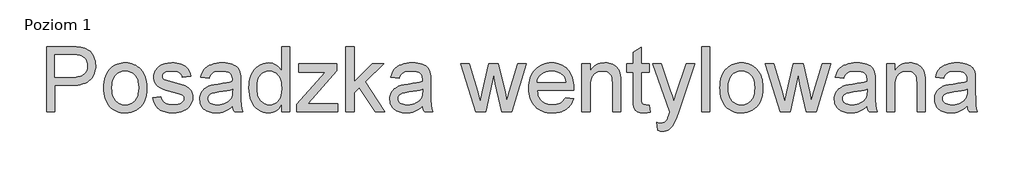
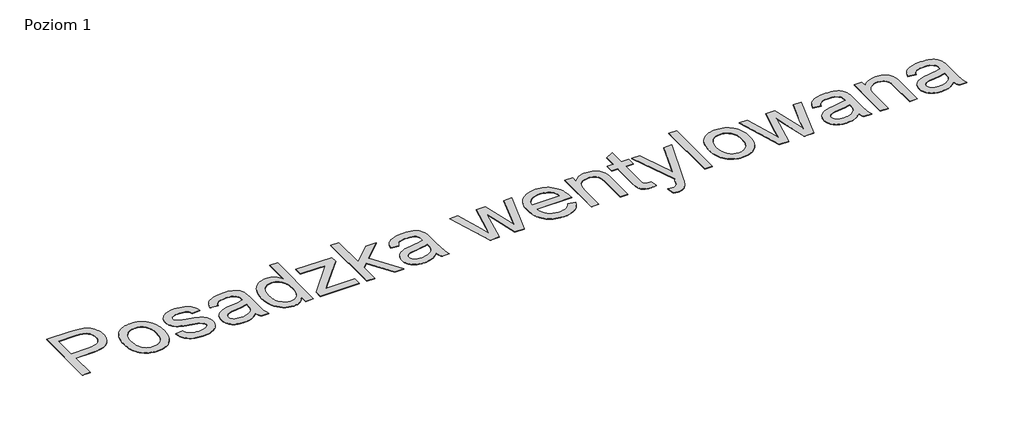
# One storey, part 2 of 4: 1 proxy.
"""IFC4 building model written with IfcOpenShell, lengths in millimetres."""

from ifc_helpers import new_model, si_unit, frame, origin, place, context, project, spatial, polyline, outline, extrude, element, save

model = new_model("IFC4")

# Units and contexts
model_context = context("Model", 3, world=origin())
ifc_project = project(units=[si_unit("LENGTHUNIT", "METRE", prefix="MILLI")], contexts=[model_context])

# Site, building, storey
site = spatial("IfcSite", under=ifc_project)
building = spatial("IfcBuilding", under=site)
storey = spatial("IfcBuildingStorey", under=building, Name="Poziom 1", Elevation=5.490868)

# Proxy
placement = place(None, origin())
element("IfcBuildingElementProxy", 1, Name="1500 mm Arial", ObjectType="1500 mm Arial", at=placement, inside=storey, context=model_context, shape_type="SweptSolid", body=[
    extrude(outline(polyline([(-113938.6355112, 58960.4499175), (-113938.6355112, 60467.2945698), (-113380.1906425, 60467.2945698), (-113250.1443572, 60463.7077203), (-113155.0468614, 60452.9471719), (-113102.6351734, 60441.6462969), (-113054.661062, 60426.1377715), (-113011.1245271, 60406.4215959), (-112972.0255688, 60382.4977699), (-112936.9503199, 60353.8719521), (-112905.484913, 60320.0498012), (-112877.6293481, 60281.0313171), (-112853.3836254, 60236.8164998), (-112833.7479239, 60188.865381), (-112819.7224228, 60138.6379923), (-112811.3071222, 60086.1343338), (-112808.502022, 60031.3544055), (-112810.3960394, 59984.1792877), (-112816.0780918, 59938.8550763), (-112825.5481791, 59895.3817712), (-112838.8063013, 59853.7593723), (-112855.8524585, 59813.9878797), (-112876.6866505, 59776.0672934), (-112901.3088775, 59739.9976134), (-112929.7191394, 59705.7788397), (-112963.0728156, 59674.5663517), (-113002.5252855, 59647.5155288), (-113048.0765491, 59624.6263709), (-113099.7266064, 59605.8988781), (-113157.4754574, 59591.3330503), (-113221.3231021, 59580.9288876), (-113291.2695406, 59574.68639), (-113367.3147727, 59572.6055575), (-113750.2799296, 59572.6055575), (-113750.2799296, 58960.4499175), (-113938.6355112, 58960.4499175)]), holes=[polyline([(-113750.2799296, 59760.961139), (-113356.2783128, 59760.961139), (-113265.6873715, 59765.2837525), (-113189.259887, 59778.2515928), (-113156.3574411, 59787.977473), (-113126.9958593, 59799.86466), (-113101.1751418, 59813.9131537), (-113078.8952884, 59830.1229541), (-113043.0038013, 59868.2217332), (-113017.3670248, 59913.3562555), (-113001.9849588, 59965.526521), (-112996.8576035, 60024.7325296), (-112999.8811337, 60068.694428), (-113008.9517241, 60109.3453884), (-113024.0693749, 60146.685411), (-113045.2340859, 60180.7144955), (-113071.3192186, 60210.3289961), (-113101.1981344, 60234.4252668), (-113134.8708333, 60253.0033076), (-113172.3373152, 60266.0631184), (-113244.9940093, 60275.7200208), (-113360.6928967, 60278.9389882), (-113750.2799296, 60278.9389882), (-113750.2799296, 59760.961139)])]), frame((0.0, 0.0, 5.490868), z_axis=(0.0, 0.0, 1.0), x_axis=(1.0, 0.0, 0.0)), (0.0, 0.0, 1.0), 10.0),
    extrude(outline(polyline([(-112620.1464405, 59513.7444383), (-112617.6000073, 59587.8784084), (-112609.9607077, 59657.057468), (-112597.2285418, 59721.2816169), (-112579.4035095, 59780.5508553), (-112556.4856108, 59834.865183), (-112528.4748458, 59884.2246), (-112495.3712144, 59928.6291065), (-112457.1747166, 59968.0787023), (-112422.2144307, 59996.7907424), (-112385.3917423, 60021.6745105), (-112346.7066512, 60042.7300065), (-112306.1591576, 60059.9572306), (-112263.7492613, 60073.3561826), (-112219.4769625, 60082.9268627), (-112173.342261, 60088.6692707), (-112125.3451569, 60090.5834067), (-112072.1430975, 60088.2525294), (-112021.4299896, 60081.2598974), (-111973.2058334, 60069.6055107), (-111927.4706288, 60053.2893694), (-111884.2243758, 60032.3114735), (-111843.4670745, 60006.6718229), (-111805.1987247, 59976.3704176), (-111769.4193266, 59941.4072577), (-111737.042837, 59902.3341661), (-111708.9832126, 59859.7029658), (-111685.2404535, 59813.5136568), (-111665.8145597, 59763.7662392), (-111650.7055312, 59710.4607129), (-111639.913368, 59653.597078), (-111633.4380701, 59593.1753344), (-111631.2796374, 59529.1954821), (-111635.0964131, 59428.3728228), (-111646.5467402, 59338.9085201), (-111665.6306187, 59260.8025739), (-111692.3480486, 59194.0549845), (-111726.3656369, 59136.400978), (-111767.3499904, 59085.5757811), (-111815.3011092, 59041.5793938), (-111870.2189933, 59004.4118159), (-111929.9653286, 58974.8777895), (-111992.4018009, 58953.7820564), (-112057.5284104, 58941.1246165), (-112125.3451569, 58936.9054698), (-112179.3864472, 58939.2277249), (-112230.7778375, 58946.1944902), (-112279.5193278, 58957.8057657), (-112325.6109181, 58974.0615513), (-112369.0526084, 58994.9618472), (-112409.8443987, 59020.5066532), (-112447.986289, 59050.6959695), (-112483.4782793, 59085.5297959), (-112515.5098795, 59124.732221), (-112543.2705998, 59168.0273333), (-112566.76044, 59215.4151328), (-112585.9794002, 59266.8956195), (-112600.9274803, 59322.4687934), (-112611.6046804, 59382.1346545), (-112618.0110004, 59445.8932028), (-112620.1464405, 59513.7444383)]), holes=[polyline([(-112431.7908589, 59514.1123203), (-112426.3416069, 59422.751126), (-112419.5300418, 59381.6661798), (-112409.9938507, 59343.6450007), (-112397.7330336, 59308.687589), (-112382.7475904, 59276.7939444), (-112365.0375213, 59247.9640671), (-112344.6028261, 59222.1979571), (-112322.1045428, 59199.4783698), (-112298.2037094, 59179.7880608), (-112272.9003259, 59163.1270302), (-112246.1943924, 59149.4952778), (-112218.0859087, 59138.8928037), (-112188.5748749, 59131.319608), (-112125.3451569, 59125.2610514), (-112062.4373358, 59131.3540969), (-112033.0527614, 59138.9704038), (-112005.0477445, 59149.6332335), (-111978.4222851, 59163.342586), (-111953.1763832, 59180.0984613), (-111929.3100388, 59199.9008593), (-111906.8232518, 59222.7497801), (-111886.3885566, 59248.7199497), (-111868.6784874, 59277.8860941), (-111853.6930443, 59310.2482134), (-111841.4322272, 59345.8063075), (-111831.8960361, 59384.5603764), (-111825.084471, 59426.5104202), (-111819.635219, 59519.9984322), (-111825.1189599, 59608.4625557), (-111831.9736362, 59648.409367), (-111841.5701829, 59685.4993448), (-111853.9086001, 59719.7324889), (-111868.9888879, 59751.1087993), (-111886.8110461, 59779.6282762), (-111907.3750748, 59805.2909194), (-111953.9006509, 59847.7008157), (-111979.155175, 59864.3618464), (-112005.7375233, 59877.9935987), (-112033.6476956, 59888.5960728), (-112062.885692, 59896.1692686), (-112125.3451569, 59902.2278252), (-112188.5748749, 59896.1922612), (-112218.0859087, 59888.6478062), (-112246.1943924, 59878.0855692), (-112272.9003259, 59864.5055503), (-112298.2037094, 59847.9077493), (-112322.1045428, 59828.2921664), (-112344.6028261, 59805.6588014), (-112365.0375213, 59779.9789137), (-112382.7475904, 59751.2237625), (-112397.7330336, 59719.3933476), (-112409.9938507, 59684.4876693), (-112419.5300418, 59646.5067273), (-112426.3416069, 59605.4505219), (-112431.7908589, 59514.1123203)])]), frame((0.0, 0.0, 5.490868), z_axis=(0.0, 0.0, 1.0), x_axis=(1.0, 0.0, 0.0)), (0.0, 0.0, 1.0), 10.0),
    extrude(outline(polyline([(-111490.0129513, 59290.0721852), (-111301.6573697, 59313.6166329), (-111290.2760205, 59270.6664099), (-111271.9508986, 59233.0504759), (-111246.6820041, 59200.7688309), (-111214.4693369, 59173.8214747), (-111175.2209265, 59152.5762895), (-111128.8448025, 59137.4011572), (-111075.3409648, 59128.2960778), (-111014.7094135, 59125.2610514), (-110954.1468401, 59128.0431589), (-110901.953582, 59136.3894817), (-110858.1296393, 59150.3000196), (-110822.675012, 59169.7747728), (-110795.3137886, 59192.9973237), (-110775.7700576, 59218.1512551), (-110764.043819, 59245.236567), (-110760.1350728, 59274.2532594), (-110764.0668117, 59299.6831023), (-110775.8620281, 59322.2618598), (-110795.5207223, 59341.9895318), (-110823.042894, 59358.8661183), (-110893.5842666, 59382.778448), (-111016.9167055, 59412.5768896), (-111188.8095677, 59462.2869442), (-111252.200234, 59484.4173455), (-111300.5537238, 59504.7313294), (-111338.9169181, 59526.0110035), (-111372.3366981, 59551.0384755), (-111400.8130638, 59579.8137453), (-111424.3460151, 59612.336813), (-111442.7746038, 59647.6304919), (-111455.9378815, 59684.7175955), (-111463.8358481, 59723.5981239), (-111466.4685036, 59764.272077), (-111464.3531821, 59801.4626474), (-111458.0072177, 59837.2506678), (-111447.4306103, 59871.636138), (-111432.62336, 59904.6190581), (-111414.1602824, 59935.532642), (-111392.6161931, 59963.7101036), (-111367.991092, 59989.1514428), (-111340.2849792, 60011.8566597), (-111288.2756622, 60042.1609391), (-111220.5393898, 60067.590782), (-111142.2265101, 60084.8352505), (-111058.4873709, 60090.5834067), (-110995.1886751, 60088.2726479), (-110935.890696, 60081.3403716), (-110880.5934336, 60069.7865777), (-110829.2968879, 60053.6112662), (-110783.219668, 60033.4927196), (-110743.5803831, 60010.1092203), (-110710.379033, 59983.4607682), (-110683.6156178, 59953.5473635), (-110661.9105801, 59919.3228416), (-110643.8843624, 59879.7410382), (-110629.5369646, 59834.8019532), (-110618.8683867, 59784.5055867), (-110807.2239682, 59760.961139), (-110816.2025882, 59792.4265459), (-110830.9983422, 59820.2361255), (-110851.6112302, 59844.3898777), (-110878.0412523, 59864.8878027), (-110910.4033716, 59881.2240625), (-110948.8125511, 59892.8928195), (-110993.268791, 59899.8940738), (-111043.7720911, 59902.2278252), (-111102.3572989, 59899.9975406), (-111151.9293977, 59893.3066868), (-111192.4883877, 59882.1552638), (-111224.0342688, 59866.5432716), (-111247.6936796, 59847.9652309), (-111264.5932587, 59827.9156621), (-111274.7330062, 59806.3945654), (-111278.1129221, 59783.4019407), (-111272.5027216, 59754.4312336), (-111255.6721203, 59728.5875234), (-111226.8853542, 59705.5029282), (-111185.4066593, 59687.016858), (-111023.1706994, 59646.9177205), (-110856.7500818, 59597.7135037), (-110746.70738, 59558.2581597), (-110707.9878, 59539.0133328), (-110673.682804, 59515.8597597), (-110643.7923919, 59488.7974405), (-110618.3165637, 59457.826375), (-110597.9565945, 59422.9005781), (-110583.4137594, 59383.9740645), (-110574.6880583, 59341.0468341), (-110571.7794913, 59294.1188871), (-110575.1938961, 59246.9840065), (-110585.4371104, 59201.2286834), (-110602.5091342, 59156.8529177), (-110626.4099676, 59113.8567095), (-110656.7487359, 59073.9530093), (-110693.1345645, 59038.8547677), (-110735.5674534, 59008.5619847), (-110784.0474025, 58983.0746602), (-110837.2523361, 58962.8756394), (-110893.8601781, 58948.4477674), (-110953.8709286, 58939.7910442), (-111017.2845875, 58936.9054698), (-111118.6590698, 58942.469685), (-111164.5351042, 58949.424954), (-111207.2036675, 58959.1623305), (-111246.6647596, 58971.6818147), (-111282.9183806, 58986.9834064), (-111315.9645305, 59005.0671057), (-111345.8032092, 59025.9329127), (-111372.7620616, 59049.5348419), (-111397.1687327, 59075.8269083), (-111419.0232225, 59104.8091117), (-111438.325531, 59136.4814522), (-111455.075658, 59170.8439298), (-111469.2736038, 59207.8965445), (-111490.0129513, 59290.0721852)])), frame((0.0, 0.0, 5.490868), z_axis=(0.0, 0.0, 1.0), x_axis=(1.0, 0.0, 0.0)), (0.0, 0.0, 1.0), 10.0),
    extrude(outline(polyline([(-109653.5460314, 59101.7166037), (-109698.2092048, 59059.8010488), (-109743.5391644, 59024.5533552), (-109789.5359101, 58995.9735227), (-109836.199442, 58974.0615513), (-109884.0585903, 58957.8057657), (-109933.6421854, 58946.1944902), (-109984.9502274, 58939.2277249), (-110037.9827163, 58936.9054698), (-110121.8483149, 58942.4926776), (-110159.909731, 58949.4766874), (-110195.390225, 58959.254301), (-110228.2897969, 58971.8255186), (-110258.6084466, 58987.19034), (-110286.3461742, 59005.3487654), (-110311.5029797, 59026.3007946), (-110333.8776776, 59049.4256269), (-110353.2690825, 59074.1024614), (-110369.6771943, 59100.331298), (-110383.102013, 59128.1121368), (-110393.5435387, 59157.4449778), (-110401.0017714, 59188.3298209), (-110406.9683575, 59254.7555137), (-110404.7150803, 59294.6937028), (-110397.9552486, 59332.8384671), (-110386.6888625, 59369.1898068), (-110370.9159219, 59403.7477217), (-110351.4756578, 59435.7534553), (-110329.2073007, 59464.4482509), (-110304.1108509, 59489.8321086), (-110276.1863082, 59511.9050283), (-110213.8762953, 59547.7735228), (-110144.3006129, 59573.7092035), (-110076.5183553, 59588.1485718), (-109981.3288891, 59602.0361171), (-109877.7241222, 59616.2915444), (-109788.7426646, 59631.8345587), (-109714.3845163, 59648.66516), (-109654.6496773, 59666.7833483), (-109653.5460314, 59708.7218957), (-109656.7879914, 59754.3852484), (-109666.5138717, 59792.7829316), (-109682.7236721, 59823.9149454), (-109705.4173927, 59847.7812899), (-109744.6428104, 59871.6016491), (-109792.4214845, 59888.6161913), (-109848.753415, 59898.8249167), (-109913.6386019, 59902.2278252), (-109973.9712492, 59899.9630516), (-110025.8426105, 59893.168731), (-110069.2526859, 59881.8448634), (-110104.2014754, 59865.9914486), (-110132.9192637, 59844.3668851), (-110157.6363352, 59815.729571), (-110178.3526901, 59780.0795065), (-110195.0683283, 59737.4166913), (-110383.4239098, 59760.961139), (-110369.0880083, 59815.2237333), (-110350.7283975, 59863.9680977), (-110328.3450773, 59907.1942321), (-110301.9380479, 59944.9021366), (-110270.3691741, 59977.8505678), (-110232.5003213, 60006.7982823), (-110188.3314892, 60031.7452801), (-110137.862678, 60052.6915612), (-110082.1170594, 60069.2692436), (-110022.1178053, 60081.1104453), (-109957.8649156, 60088.2151664), (-109889.3583903, 60090.5834067), (-109822.3923708, 60088.4910778), (-109762.0252347, 60082.2140913), (-109708.2569818, 60071.7524471), (-109661.0876123, 60057.1061451), (-109620.1262514, 60039.2983573), (-109584.9820245, 60019.3522554), (-109555.6549317, 59997.2678394), (-109532.1449729, 59973.0451092), (-109513.0840871, 59946.0862568), (-109497.1042129, 59915.7934737), (-109484.2053504, 59882.1667601), (-109474.3874997, 59845.2061159), (-109467.4897123, 59780.0910028), (-109465.1904498, 59680.3949821), (-109465.1904498, 59446.0541511), (-109462.7992169, 59241.9256291), (-109455.6255179, 59118.8231164), (-109441.4620611, 59037.9350627), (-109418.1015544, 58960.4499175), (-109606.457136, 58960.4499175), (-109623.1957668, 58991.9038281), (-109636.6234596, 59025.9329127), (-109646.7402144, 59062.5371712), (-109653.5460314, 59101.7166037)]), holes=[polyline([(-109653.5460314, 59478.4277667), (-109710.4757701, 59462.1259958), (-109780.0974377, 59447.0658266), (-109957.4165594, 59420.6702935), (-110055.1352143, 59406.2309252), (-110119.4685782, 59390.1360879), (-110161.6370519, 59369.2587847), (-110178.6171053, 59355.8540845), (-110192.8610363, 59340.4720185), (-110204.1274224, 59323.6644099), (-110212.174841, 59305.9830815), (-110217.0032922, 59287.4280334), (-110218.6127759, 59267.9992655), (-110215.1064007, 59238.7296542), (-110204.5872749, 59211.9892317), (-110187.0553985, 59187.7779979), (-110162.5107717, 59166.0959528), (-110131.1833205, 59148.2306834), (-110093.3029713, 59135.4697767), (-110048.8697241, 59127.8132327), (-109997.8835788, 59125.2610514), (-109945.8282765, 59128.0776479), (-109896.7160302, 59136.5274375), (-109850.5468398, 59150.6104201), (-109807.3207053, 59170.3265958), (-109768.3252138, 59194.0434881), (-109734.8479523, 59220.1286209), (-109706.8889207, 59248.5819939), (-109684.4481189, 59279.4036073), (-109671.4113007, 59306.994757), (-109662.0992877, 59340.4720185), (-109656.5120799, 59379.835392), (-109654.6496773, 59425.0848774), (-109653.5460314, 59478.4277667)])]), frame((0.0, 0.0, 5.490868), z_axis=(0.0, 0.0, 1.0), x_axis=(1.0, 0.0, 0.0)), (0.0, 0.0, 1.0), 10.0),
    extrude(outline(polyline([(-108523.4125422, 58960.4499175), (-108523.4125422, 59138.1369212), (-108550.1012313, 59090.9732998), (-108579.7674653, 59050.0981612), (-108612.4112442, 59015.5115055), (-108648.032568, 58987.2133327), (-108686.6314367, 58965.2036427), (-108728.2078504, 58949.4824355), (-108772.7618089, 58940.0497112), (-108820.2933123, 58936.9054698), (-108882.4653695, 58941.4580095), (-108942.0622527, 58955.1156286), (-108999.0839619, 58977.878327), (-109053.5304972, 59009.7461049), (-109103.7004043, 59049.7647682), (-109147.892229, 59096.980123), (-109186.1059712, 59151.3921693), (-109218.3416311, 59213.0009072), (-109243.9324223, 59280.6337128), (-109262.211559, 59353.1179621), (-109273.179041, 59430.4536553), (-109276.8348683, 59512.6407923), (-109273.4664488, 59593.3219123), (-109263.3611902, 59670.1862567), (-109246.5190926, 59743.2338254), (-109222.940156, 59812.4646183), (-109192.6358766, 59875.8552846), (-109155.6177509, 59931.3824733), (-109111.8857787, 59979.0461843), (-109061.4399601, 60018.8464176), (-109006.0622235, 60050.2313503), (-108947.5344974, 60072.6491594), (-108885.8567816, 60086.0998449), (-108821.0290763, 60090.5834067), (-108773.6182841, 60087.3759356), (-108728.8746365, 60077.7535221), (-108686.7981333, 60061.7161664), (-108647.3887745, 60039.2638684), (-108611.0834201, 60011.684215), (-108578.31893, 59980.2647934), (-108549.095304, 59945.0056034), (-108523.4125422, 59905.9066451), (-108523.4125422, 60467.2945698), (-108335.0569606, 60467.2945698), (-108335.0569606, 58960.4499175), (-108523.4125422, 58960.4499175)]), holes=[polyline([(-109088.4792868, 59513.3765563), (-109083.1679905, 59422.0383546), (-109076.5288701, 59380.9821492), (-109067.2341015, 59343.0012072), (-109055.2836849, 59308.0955289), (-109040.67762, 59276.2651141), (-109023.415907, 59247.5099628), (-109003.4985459, 59221.8300751), (-108959.0997876, 59179.5811272), (-108910.8842536, 59149.4033073), (-108858.8519439, 59131.2966153), (-108803.0028585, 59125.2610514), (-108746.8893579, 59131.0207038), (-108695.1674487, 59148.2996613), (-108647.8371307, 59177.0979237), (-108604.8984041, 59217.4154911), (-108585.8001552, 59241.9744884), (-108569.2483395, 59269.5742603), (-108555.242957, 59300.2148068), (-108543.7840077, 59333.8961279), (-108528.5054085, 59410.3810939), (-108523.4125422, 59499.0291585), (-108528.597379, 59596.2189831), (-108535.0784251, 59639.6233103), (-108544.1518896, 59679.5672476), (-108555.8177726, 59716.0507948), (-108570.076074, 59749.073952), (-108586.9267938, 59778.6367193), (-108606.3699321, 59804.7390964), (-108650.2513563, 59847.3904153), (-108673.9941154, 59864.1462905), (-108698.9382391, 59877.855643), (-108725.0837275, 59888.5184727), (-108752.4305805, 59896.1347796), (-108810.7283804, 59902.2278252), (-108867.6811118, 59896.3762022), (-108919.7134215, 59878.8213332), (-108966.8253095, 59849.5632183), (-109009.0167758, 59808.6018574), (-109027.6408018, 59783.5082816), (-109043.7816243, 59755.0405382), (-109057.4392434, 59723.198627), (-109068.613659, 59687.9825482), (-109083.5128798, 59607.4278876), (-109088.4792868, 59513.3765563)])]), frame((0.0, 0.0, 5.490868), z_axis=(0.0, 0.0, 1.0), x_axis=(1.0, 0.0, 0.0)), (0.0, 0.0, 1.0), 10.0),
    extrude(outline(polyline([(-108170.2458268, 58960.4499175), (-108170.2458268, 59137.7690392), (-107520.1983413, 59878.6833775), (-107712.6006248, 59878.6833775), (-108123.1569314, 59878.6833775), (-108123.1569314, 60067.038959), (-107252.0123668, 60067.038959), (-107252.0123668, 59907.0102911), (-107828.4834533, 59249.6051657), (-107916.7751321, 59148.805499), (-107698.988991, 59148.805499), (-107228.4679191, 59148.805499), (-107228.4679191, 58960.4499175), (-108170.2458268, 58960.4499175)])), frame((0.0, 0.0, 5.490868), z_axis=(0.0, 0.0, 1.0), x_axis=(1.0, 0.0, 0.0)), (0.0, 0.0, 1.0), 10.0),
    extrude(outline(polyline([(-107040.1123376, 58960.4499175), (-107040.1123376, 60467.2945698), (-106851.7567561, 60467.2945698), (-106851.7567561, 59657.5862984), (-106429.4282256, 60067.038959), (-106168.967773, 60067.038959), (-106596.8145334, 59652.4359504), (-106145.4233253, 58960.4499175), (-106365.4167585, 58960.4499175), (-106731.8272257, 59521.4699602), (-106851.7567561, 59404.8513677), (-106851.7567561, 58960.4499175), (-107040.1123376, 58960.4499175)])), frame((0.0, 0.0, 5.490868), z_axis=(0.0, 0.0, 1.0), x_axis=(1.0, 0.0, 0.0)), (0.0, 0.0, 1.0), 10.0),
    extrude(outline(polyline([(-105274.2787608, 59101.7166037), (-105318.9419342, 59059.8010488), (-105364.2718938, 59024.5533552), (-105410.2686395, 58995.9735227), (-105456.9321714, 58974.0615513), (-105504.7913197, 58957.8057657), (-105554.3749148, 58946.1944902), (-105605.6829569, 58939.2277249), (-105658.7154457, 58936.9054698), (-105742.5810443, 58942.4926776), (-105780.6424604, 58949.4766874), (-105816.1229544, 58959.254301), (-105849.0225263, 58971.8255186), (-105879.341176, 58987.19034), (-105907.0789036, 59005.3487654), (-105932.2357091, 59026.3007946), (-105954.6104071, 59049.4256269), (-105974.0018119, 59074.1024614), (-105990.4099237, 59100.331298), (-106003.8347425, 59128.1121368), (-106014.2762681, 59157.4449778), (-106021.7345008, 59188.3298209), (-106027.7010869, 59254.7555137), (-106025.4478097, 59294.6937028), (-106018.687978, 59332.8384671), (-106007.4215919, 59369.1898068), (-105991.6486514, 59403.7477217), (-105972.2083872, 59435.7534553), (-105949.9400302, 59464.4482509), (-105924.8435803, 59489.8321086), (-105896.9190376, 59511.9050283), (-105834.6090247, 59547.7735228), (-105765.0333423, 59573.7092035), (-105697.2510847, 59588.1485718), (-105602.0616185, 59602.0361171), (-105498.4568516, 59616.2915444), (-105409.475394, 59631.8345587), (-105335.1172457, 59648.66516), (-105275.3824068, 59666.7833483), (-105274.2787608, 59708.7218957), (-105277.5207209, 59754.3852484), (-105287.2466011, 59792.7829316), (-105303.4564015, 59823.9149454), (-105326.1501221, 59847.7812899), (-105365.3755398, 59871.6016491), (-105413.1542139, 59888.6161913), (-105469.4861445, 59898.8249167), (-105534.3713314, 59902.2278252), (-105594.7039786, 59899.9630516), (-105646.5753399, 59893.168731), (-105689.9854153, 59881.8448634), (-105724.9342049, 59865.9914486), (-105753.6519931, 59844.3668851), (-105778.3690647, 59815.729571), (-105799.0854195, 59780.0795065), (-105815.8010577, 59737.4166913), (-106004.1566392, 59760.961139), (-105989.8207377, 59815.2237333), (-105971.4611269, 59863.9680977), (-105949.0778067, 59907.1942321), (-105922.6707773, 59944.9021366), (-105891.1019036, 59977.8505678), (-105853.2330507, 60006.7982823), (-105809.0642186, 60031.7452801), (-105758.5954074, 60052.6915612), (-105702.8497888, 60069.2692436), (-105642.8505347, 60081.1104453), (-105578.597645, 60088.2151664), (-105510.0911197, 60090.5834067), (-105443.1251002, 60088.4910778), (-105382.7579641, 60082.2140913), (-105328.9897112, 60071.7524471), (-105281.8203417, 60057.1061451), (-105240.8589808, 60039.2983573), (-105205.7147539, 60019.3522554), (-105176.3876611, 59997.2678394), (-105152.8777024, 59973.0451092), (-105133.8168165, 59946.0862568), (-105117.8369423, 59915.7934737), (-105104.9380799, 59882.1667601), (-105095.1202291, 59845.2061159), (-105088.2224417, 59780.0910028), (-105085.9231792, 59680.3949821), (-105085.9231792, 59446.0541511), (-105083.5319463, 59241.9256291), (-105076.3582474, 59118.8231164), (-105062.1947905, 59037.9350627), (-105038.8342839, 58960.4499175), (-105227.1898654, 58960.4499175), (-105243.9284962, 58991.9038281), (-105257.356189, 59025.9329127), (-105267.4729439, 59062.5371712), (-105274.2787608, 59101.7166037)]), holes=[polyline([(-105274.2787608, 59478.4277667), (-105331.2084995, 59462.1259958), (-105400.8301671, 59447.0658266), (-105578.1492888, 59420.6702935), (-105675.8679438, 59406.2309252), (-105740.2013077, 59390.1360879), (-105782.3697814, 59369.2587847), (-105799.3498347, 59355.8540845), (-105813.5937657, 59340.4720185), (-105824.8601518, 59323.6644099), (-105832.9075704, 59305.9830815), (-105837.7360216, 59287.4280334), (-105839.3455054, 59267.9992655), (-105835.8391301, 59238.7296542), (-105825.3200043, 59211.9892317), (-105807.788128, 59187.7779979), (-105783.2435011, 59166.0959528), (-105751.9160499, 59148.2306834), (-105714.0357008, 59135.4697767), (-105669.6024535, 59127.8132327), (-105618.6163083, 59125.2610514), (-105566.5610059, 59128.0776479), (-105517.4487596, 59136.5274375), (-105471.2795692, 59150.6104201), (-105428.0534348, 59170.3265958), (-105389.0579433, 59194.0434881), (-105355.5806817, 59220.1286209), (-105327.6216501, 59248.5819939), (-105305.1808484, 59279.4036073), (-105292.1440302, 59306.994757), (-105282.8320172, 59340.4720185), (-105277.2448094, 59379.835392), (-105275.3824068, 59425.0848774), (-105274.2787608, 59478.4277667)])]), frame((0.0, 0.0, 5.490868), z_axis=(0.0, 0.0, 1.0), x_axis=(1.0, 0.0, 0.0)), (0.0, 0.0, 1.0), 10.0),
    extrude(outline(polyline([(-104053.2784188, 58960.4499175), (-104391.3619723, 60067.038959), (-104196.0166329, 60067.038959), (-104004.7179954, 59421.4060575), (-103947.6962862, 59190.7440465), (-103900.9752728, 59412.9447716), (-103749.0400088, 60067.038959), (-103525.3677557, 60067.038959), (-103373.4324917, 59414.7841816), (-103331.8618262, 59213.5527302), (-103272.264943, 59425.8206414), (-103080.9663055, 60067.038959), (-102884.5173201, 60067.038959), (-103223.7045197, 58960.4499175), (-103451.0555927, 58960.4499175), (-103596.0010988, 59609.393757), (-103637.9396462, 59811.7288544), (-103824.4558178, 58960.4499175), (-104053.2784188, 58960.4499175)])), frame((0.0, 0.0, 5.490868), z_axis=(0.0, 0.0, 1.0), x_axis=(1.0, 0.0, 0.0)), (0.0, 0.0, 1.0), 10.0),
    extrude(outline(polyline([(-101980.263376, 59290.0721852), (-101795.5866144, 59266.5277375), (-101823.9020317, 59192.5604638), (-101841.7759233, 59158.8705205), (-101862.1272703, 59127.3763728), (-101884.9560725, 59098.0780208), (-101910.2623301, 59070.9754644), (-101938.0460429, 59046.0687037), (-101968.3072111, 59023.3577387), (-102000.8963825, 59003.0954882), (-102035.6641052, 58985.5348711), (-102072.610379, 58970.6758873), (-102111.735204, 58958.518537), (-102196.5205076, 58942.3087366), (-102290.0200159, 58936.9054698), (-102350.0480108, 58939.2363472), (-102406.8915272, 58946.2289791), (-102460.5505651, 58957.8833658), (-102511.0251245, 58974.1995071), (-102558.3152053, 58995.177403), (-102602.4208077, 59020.8170537), (-102643.3419315, 59051.1184589), (-102681.0785768, 59086.0816189), (-102714.9639574, 59125.2524291), (-102744.3312873, 59168.1767854), (-102769.1805665, 59214.8546876), (-102789.5117948, 59265.2861358), (-102805.3249725, 59319.4711299), (-102816.6200994, 59377.4096701), (-102823.3971755, 59439.1017563), (-102825.6562009, 59504.5473884), (-102823.3741829, 59572.220431), (-102816.5281289, 59635.9962238), (-102805.1180389, 59695.8747667), (-102789.1439129, 59751.8560596), (-102768.6057508, 59803.9401027), (-102743.5035528, 59852.1268959), (-102713.8373188, 59896.4164393), (-102679.6070488, 59936.8087327), (-102641.7381959, 59972.8496719), (-102601.1562133, 60004.0851526), (-102557.861101, 60030.5151747), (-102511.852859, 60052.1397382), (-102463.1314872, 60068.9588432), (-102411.6969858, 60080.9724896), (-102357.5493546, 60088.1806774), (-102300.6885938, 60090.5834067), (-102245.6873614, 60088.1864256), (-102193.2555549, 60080.9954822), (-102143.3931741, 60069.0105766), (-102096.1002192, 60052.2317087), (-102051.3766901, 60030.6588786), (-102009.2225868, 60004.2920862), (-101969.6379093, 59973.1313316), (-101932.6226576, 59937.1766147), (-101899.1252775, 59896.8762918), (-101870.0942147, 59852.6787189), (-101845.5294693, 59804.5838962), (-101825.4310412, 59752.5918236), (-101809.7989305, 59696.7025011), (-101798.6331371, 59636.9159288), (-101791.9336611, 59573.2321065), (-101789.7005025, 59505.6510344), (-101790.8041484, 59454.883319), (-102637.3006193, 59454.883319), (-102626.3906189, 59379.7204289), (-102616.8917908, 59345.6396109), (-102604.6970775, 59313.8925444), (-102589.8064789, 59284.4792292), (-102572.2199951, 59257.3996655), (-102551.9376261, 59232.6538532), (-102528.9593718, 59210.2417922), (-102477.3064404, 59173.0627181), (-102419.6524339, 59146.5062366), (-102355.9973525, 59130.5723477), (-102286.3411959, 59125.2610514), (-102234.2399084, 59127.7212622), (-102186.0933523, 59135.1018947), (-102141.9015276, 59147.4029489), (-102101.6644344, 59164.6244248), (-102065.3820726, 59187.2261749), (-102033.0544423, 59215.6680517), (-102004.6815434, 59249.9500551), (-101980.263376, 59290.0721852)]), holes=[polyline([(-102637.3006193, 59643.2389006), (-101978.056084, 59643.2389006), (-101987.735979, 59696.5358046), (-102003.5319122, 59742.7509803), (-102025.4438835, 59781.8844275), (-102053.471893, 59813.9361463), (-102078.2694387, 59834.6295086), (-102104.8374166, 59852.5637558), (-102133.1758265, 59867.7388881), (-102163.2846686, 59880.1549055), (-102228.8136489, 59896.7095952), (-102301.4243577, 59902.2278252), (-102367.6546132, 59897.8247375), (-102428.3896313, 59884.6154746), (-102483.6294122, 59862.6000365), (-102533.3739557, 59831.7784231), (-102575.1170658, 59793.5761772), (-102606.3525465, 59749.4188414), (-102627.0803977, 59699.3064159), (-102637.3006193, 59643.2389006)])]), frame((0.0, 0.0, 5.490868), z_axis=(0.0, 0.0, 1.0), x_axis=(1.0, 0.0, 0.0)), (0.0, 0.0, 1.0), 10.0),
    extrude(outline(polyline([(-101601.3449209, 58960.4499175), (-101601.3449209, 60067.038959), (-101412.9893394, 60067.038959), (-101412.9893394, 59912.528521), (-101381.9148071, 59954.2601349), (-101347.5523295, 59990.4275335), (-101309.9019066, 60021.030717), (-101268.9635383, 60046.0696853), (-101224.7372247, 60065.5444384), (-101177.2229657, 60079.4549763), (-101126.4207615, 60087.8012991), (-101072.3306119, 60090.5834067), (-101024.931316, 60088.3416258), (-100979.4863933, 60081.6162831), (-100935.9958437, 60070.4073785), (-100894.4596672, 60054.7149122), (-100856.4528586, 60035.3781148), (-100823.5504126, 60013.2362172), (-100795.7523294, 59988.2892194), (-100773.0586088, 59960.5371214), (-100754.4230865, 59930.0144121), (-100738.799598, 59896.7555805), (-100726.1881433, 59860.7606265), (-100716.5887225, 59822.0295502), (-100709.1391121, 59750.5684727), (-100706.6559087, 59639.9279626), (-100706.6559087, 58960.4499175), (-100895.0114902, 58960.4499175), (-100895.0114902, 59614.5441049), (-100900.4377496, 59711.9408632), (-100907.2205739, 59750.0856275), (-100916.7165279, 59781.1946488), (-100929.6498793, 59807.3947446), (-100946.7448958, 59830.8127329), (-100968.0015773, 59851.4486135), (-100993.4199239, 59869.3023866), (-101022.1262158, 59883.707266), (-101053.2467334, 59893.9964655), (-101086.7814765, 59900.1699853), (-101122.7304452, 59902.2278252), (-101179.9245991, 59897.6063076), (-101233.0490585, 59883.7417549), (-101282.1038233, 59860.6341671), (-101327.0888935, 59828.2835441), (-101347.2218105, 59807.7223895), (-101364.6703386, 59783.0110661), (-101379.4344777, 59754.149574), (-101391.5142279, 59721.137913), (-101400.9095892, 59683.9760834), (-101407.6205615, 59642.6640849), (-101412.9893394, 59547.5895818), (-101412.9893394, 58960.4499175), (-101601.3449209, 58960.4499175)])), frame((0.0, 0.0, 5.490868), z_axis=(0.0, 0.0, 1.0), x_axis=(1.0, 0.0, 0.0)), (0.0, 0.0, 1.0), 10.0),
    extrude(outline(polyline([(-100047.4113733, 59117.5355295), (-100023.8669256, 58954.9316876), (-100098.4550001, 58941.4120243), (-100164.7657298, 58936.9054698), (-100212.843308, 58938.8598429), (-100255.1727301, 58944.7229622), (-100291.753996, 58954.4948277), (-100322.5871057, 58968.1754394), (-100348.4768011, 58985.0290333), (-100370.2278241, 59004.3198454), (-100387.8401746, 59026.0478758), (-100401.3138527, 59050.2131243), (-100411.2926518, 59082.6097325), (-100418.4203654, 59129.0318418), (-100422.6969936, 59189.4794521), (-100424.1225364, 59263.9525635), (-100424.1225364, 59878.6833775), (-100565.3892225, 59878.6833775), (-100565.3892225, 60067.038959), (-100424.1225364, 60067.038959), (-100424.1225364, 60335.9606975), (-100235.7669548, 60446.693178), (-100235.7669548, 60067.038959), (-100047.4113733, 60067.038959), (-100047.4113733, 59878.6833775), (-100235.7669548, 59878.6833775), (-100235.7669548, 59269.4707935), (-100233.2837514, 59207.4826773), (-100225.834141, 59172.3499467), (-100212.8203154, 59152.8981862), (-100193.6444664, 59137.9529802), (-100166.467184, 59128.4340336), (-100129.4490582, 59125.2610514), (-100047.4113733, 59117.5355295)])), frame((0.0, 0.0, 5.490868), z_axis=(0.0, 0.0, 1.0), x_axis=(1.0, 0.0, 0.0)), (0.0, 0.0, 1.0), 10.0),
    extrude(outline(polyline([(-99859.0557918, 58536.6498591), (-99882.6002395, 58718.0156827), (-99831.2807011, 58705.5996654), (-99786.9509207, 58701.4609929), (-99736.6430579, 58706.6573261), (-99715.6967768, 58713.1527426), (-99697.5555959, 58722.2463256), (-99667.1133608, 58747.1243456), (-99642.7411786, 58780.1877399), (-99621.9558459, 58828.8401337), (-99591.2376993, 58918.8792521), (-99576.5224195, 58964.4966195), (-99976.7780302, 60067.038959), (-99778.4896348, 60067.038959), (-99565.8538416, 59452.3081451), (-99526.7663796, 59332.3786146), (-99491.9095606, 59206.5629723), (-99417.9652795, 59423.9812314), (-99199.8112564, 60067.038959), (-99002.994389, 60067.038959), (-99388.1668379, 58933.9624139), (-99445.3724882, 58783.3147368), (-99488.2307406, 58688.2172411), (-99512.9937974, 58645.9797895), (-99539.4583085, 58609.7664056), (-99567.6242737, 58579.5770894), (-99597.4916932, 58555.4118408), (-99629.6813678, 58536.9027779), (-99664.8140983, 58523.6820187), (-99702.8898848, 58515.7495632), (-99743.9087273, 58513.1054114), (-99798.6311741, 58518.9915233), (-99859.0557918, 58536.6498591)])), frame((0.0, 0.0, 5.490868), z_axis=(0.0, 0.0, 1.0), x_axis=(1.0, 0.0, 0.0)), (0.0, 0.0, 1.0), 10.0),
    extrude(outline(polyline([(-98846.644541, 58960.4499175), (-98846.644541, 60467.2945698), (-98658.2889595, 60467.2945698), (-98658.2889595, 58960.4499175), (-98846.644541, 58960.4499175)])), frame((0.0, 0.0, 5.490868), z_axis=(0.0, 0.0, 1.0), x_axis=(1.0, 0.0, 0.0)), (0.0, 0.0, 1.0), 10.0),
    extrude(outline(polyline([(-98422.8444826, 59513.7444383), (-98420.2980494, 59587.8784084), (-98412.6587499, 59657.057468), (-98399.9265839, 59721.2816169), (-98382.1015516, 59780.5508553), (-98359.183653, 59834.865183), (-98331.1728879, 59884.2246), (-98298.0692565, 59928.6291065), (-98259.8727587, 59968.0787023), (-98224.9124729, 59996.7907424), (-98188.0897844, 60021.6745105), (-98149.4046934, 60042.7300065), (-98108.8571997, 60059.9572306), (-98066.4473035, 60073.3561826), (-98022.1750046, 60082.9268627), (-97976.0403031, 60088.6692707), (-97928.0431991, 60090.5834067), (-97874.8411396, 60088.2525294), (-97824.1280318, 60081.2598974), (-97775.9038755, 60069.6055107), (-97730.1686709, 60053.2893694), (-97686.9224179, 60032.3114735), (-97646.1651166, 60006.6718229), (-97607.8967669, 59976.3704176), (-97572.1173687, 59941.4072577), (-97539.7408791, 59902.3341661), (-97511.6812547, 59859.7029658), (-97487.9384957, 59813.5136568), (-97468.5126019, 59763.7662392), (-97453.4035734, 59710.4607129), (-97442.6114101, 59653.597078), (-97436.1361122, 59593.1753344), (-97433.9776796, 59529.1954821), (-97437.7944553, 59428.3728228), (-97449.2447824, 59338.9085201), (-97468.3286609, 59260.8025739), (-97495.0460908, 59194.0549845), (-97529.063679, 59136.400978), (-97570.0480325, 59085.5757811), (-97617.9991513, 59041.5793938), (-97672.9170354, 59004.4118159), (-97732.6633707, 58974.8777895), (-97795.0998431, 58953.7820564), (-97860.2264525, 58941.1246165), (-97928.0431991, 58936.9054698), (-97982.0844894, 58939.2277249), (-98033.4758796, 58946.1944902), (-98082.2173699, 58957.8057657), (-98128.3089602, 58974.0615513), (-98171.7506505, 58994.9618472), (-98212.5424408, 59020.5066532), (-98250.6843311, 59050.6959695), (-98286.1763214, 59085.5297959), (-98318.2079217, 59124.732221), (-98345.9686419, 59168.0273333), (-98369.4584821, 59215.4151328), (-98388.6774423, 59266.8956195), (-98403.6255224, 59322.4687934), (-98414.3027225, 59382.1346545), (-98420.7090426, 59445.8932028), (-98422.8444826, 59513.7444383)]), holes=[polyline([(-98234.4889011, 59514.1123203), (-98229.039649, 59422.751126), (-98222.2280839, 59381.6661798), (-98212.6918929, 59343.6450007), (-98200.4310757, 59308.687589), (-98185.4456326, 59276.7939444), (-98167.7355634, 59247.9640671), (-98147.3008682, 59222.1979571), (-98124.8025849, 59199.4783698), (-98100.9017516, 59179.7880608), (-98075.5983681, 59163.1270302), (-98048.8924345, 59149.4952778), (-98020.7839508, 59138.8928037), (-97991.272917, 59131.319608), (-97928.0431991, 59125.2610514), (-97865.1353779, 59131.3540969), (-97835.7508035, 59138.9704038), (-97807.7457867, 59149.6332335), (-97781.1203273, 59163.342586), (-97755.8744253, 59180.0984613), (-97732.0080809, 59199.9008593), (-97709.5212939, 59222.7497801), (-97689.0865987, 59248.7199497), (-97671.3765296, 59277.8860941), (-97656.3910864, 59310.2482134), (-97644.1302693, 59345.8063075), (-97634.5940782, 59384.5603764), (-97627.7825131, 59426.5104202), (-97622.3332611, 59519.9984322), (-97627.8170021, 59608.4625557), (-97634.6716783, 59648.409367), (-97644.2682251, 59685.4993448), (-97656.6066423, 59719.7324889), (-97671.68693, 59751.1087993), (-97689.5090882, 59779.6282762), (-97710.0731169, 59805.2909194), (-97756.598693, 59847.7008157), (-97781.8532172, 59864.3618464), (-97808.4355654, 59877.9935987), (-97836.3457377, 59888.5960728), (-97865.5837341, 59896.1692686), (-97928.0431991, 59902.2278252), (-97991.272917, 59896.1922612), (-98020.7839508, 59888.6478062), (-98048.8924345, 59878.0855692), (-98075.5983681, 59864.5055503), (-98100.9017516, 59847.9077493), (-98124.8025849, 59828.2921664), (-98147.3008682, 59805.6588014), (-98167.7355634, 59779.9789137), (-98185.4456326, 59751.2237625), (-98200.4310757, 59719.3933476), (-98212.6918929, 59684.4876693), (-98222.2280839, 59646.5067273), (-98229.039649, 59605.4505219), (-98234.4889011, 59514.1123203)])]), frame((0.0, 0.0, 5.490868), z_axis=(0.0, 0.0, 1.0), x_axis=(1.0, 0.0, 0.0)), (0.0, 0.0, 1.0), 10.0),
    extrude(outline(polyline([(-97037.0330068, 58960.4499175), (-97375.1165603, 60067.038959), (-97179.7712209, 60067.038959), (-96988.4725834, 59421.4060575), (-96931.4508741, 59190.7440465), (-96884.7298608, 59412.9447716), (-96732.7945968, 60067.038959), (-96509.1223437, 60067.038959), (-96357.1870797, 59414.7841816), (-96315.6164142, 59213.5527302), (-96256.019531, 59425.8206414), (-96064.7208935, 60067.038959), (-95868.2719081, 60067.038959), (-96207.4591076, 58960.4499175), (-96434.8101807, 58960.4499175), (-96579.7556868, 59609.393757), (-96621.6942342, 59811.7288544), (-96808.2104058, 58960.4499175), (-97037.0330068, 58960.4499175)])), frame((0.0, 0.0, 5.490868), z_axis=(0.0, 0.0, 1.0), x_axis=(1.0, 0.0, 0.0)), (0.0, 0.0, 1.0), 10.0),
    extrude(outline(polyline([(-95032.444015, 59101.7166037), (-95077.1071885, 59059.8010488), (-95122.4371481, 59024.5533552), (-95168.4338938, 58995.9735227), (-95215.0974257, 58974.0615513), (-95262.956574, 58957.8057657), (-95312.5401691, 58946.1944902), (-95363.8482111, 58939.2277249), (-95416.8807, 58936.9054698), (-95500.7462986, 58942.4926776), (-95538.8077147, 58949.4766874), (-95574.2882087, 58959.254301), (-95607.1877806, 58971.8255186), (-95637.5064303, 58987.19034), (-95665.2441579, 59005.3487654), (-95690.4009634, 59026.3007946), (-95712.7756613, 59049.4256269), (-95732.1670662, 59074.1024614), (-95748.575178, 59100.331298), (-95761.9999967, 59128.1121368), (-95772.4415224, 59157.4449778), (-95779.8997551, 59188.3298209), (-95785.8663412, 59254.7555137), (-95783.6130639, 59294.6937028), (-95776.8532323, 59332.8384671), (-95765.5868462, 59369.1898068), (-95749.8139056, 59403.7477217), (-95730.3736415, 59435.7534553), (-95708.1052844, 59464.4482509), (-95683.0088346, 59489.8321086), (-95655.0842919, 59511.9050283), (-95592.774279, 59547.7735228), (-95523.1985966, 59573.7092035), (-95455.416339, 59588.1485718), (-95360.2268727, 59602.0361171), (-95256.6221059, 59616.2915444), (-95167.6406483, 59631.8345587), (-95093.2825, 59648.66516), (-95033.547661, 59666.7833483), (-95032.444015, 59708.7218957), (-95035.6859751, 59754.3852484), (-95045.4118554, 59792.7829316), (-95061.6216558, 59823.9149454), (-95084.3153764, 59847.7812899), (-95123.5407941, 59871.6016491), (-95171.3194682, 59888.6161913), (-95227.6513987, 59898.8249167), (-95292.5365856, 59902.2278252), (-95352.8692328, 59899.9630516), (-95404.7405942, 59893.168731), (-95448.1506696, 59881.8448634), (-95483.0994591, 59865.9914486), (-95511.8172474, 59844.3668851), (-95536.5343189, 59815.729571), (-95557.2506738, 59780.0795065), (-95573.9663119, 59737.4166913), (-95762.3218935, 59760.961139), (-95747.985992, 59815.2237333), (-95729.6263812, 59863.9680977), (-95707.243061, 59907.1942321), (-95680.8360315, 59944.9021366), (-95649.2671578, 59977.8505678), (-95611.398305, 60006.7982823), (-95567.2294729, 60031.7452801), (-95516.7606617, 60052.6915612), (-95461.0150431, 60069.2692436), (-95401.015789, 60081.1104453), (-95336.7628992, 60088.2151664), (-95268.256374, 60090.5834067), (-95201.2903545, 60088.4910778), (-95140.9232184, 60082.2140913), (-95087.1549655, 60071.7524471), (-95039.9855959, 60057.1061451), (-94999.024235, 60039.2983573), (-94963.8800082, 60019.3522554), (-94934.5529154, 59997.2678394), (-94911.0429566, 59973.0451092), (-94891.9820708, 59946.0862568), (-94876.0021966, 59915.7934737), (-94863.1033341, 59882.1667601), (-94853.2854834, 59845.2061159), (-94846.387696, 59780.0910028), (-94844.0884335, 59680.3949821), (-94844.0884335, 59446.0541511), (-94841.6972005, 59241.9256291), (-94834.5235016, 59118.8231164), (-94820.3600448, 59037.9350627), (-94796.9995381, 58960.4499175), (-94985.3551197, 58960.4499175), (-95002.0937504, 58991.9038281), (-95015.5214433, 59025.9329127), (-95025.6381981, 59062.5371712), (-95032.444015, 59101.7166037)]), holes=[polyline([(-95032.444015, 59478.4277667), (-95089.3737538, 59462.1259958), (-95158.9954214, 59447.0658266), (-95336.3145431, 59420.6702935), (-95434.033198, 59406.2309252), (-95498.3665619, 59390.1360879), (-95540.5350356, 59369.2587847), (-95557.515089, 59355.8540845), (-95571.75902, 59340.4720185), (-95583.0254061, 59323.6644099), (-95591.0728247, 59305.9830815), (-95595.9012759, 59287.4280334), (-95597.5107596, 59267.9992655), (-95594.0043844, 59238.7296542), (-95583.4852586, 59211.9892317), (-95565.9533822, 59187.7779979), (-95541.4087554, 59166.0959528), (-95510.0813042, 59148.2306834), (-95472.200955, 59135.4697767), (-95427.7677078, 59127.8132327), (-95376.7815625, 59125.2610514), (-95324.7262602, 59128.0776479), (-95275.6140139, 59136.5274375), (-95229.4448235, 59150.6104201), (-95186.218689, 59170.3265958), (-95147.2231975, 59194.0434881), (-95113.745936, 59220.1286209), (-95085.7869043, 59248.5819939), (-95063.3461026, 59279.4036073), (-95050.3092844, 59306.994757), (-95040.9972714, 59340.4720185), (-95035.4100636, 59379.835392), (-95033.547661, 59425.0848774), (-95032.444015, 59478.4277667)])]), frame((0.0, 0.0, 5.490868), z_axis=(0.0, 0.0, 1.0), x_axis=(1.0, 0.0, 0.0)), (0.0, 0.0, 1.0), 10.0),
    extrude(outline(polyline([(-94585.0995089, 58960.4499175), (-94585.0995089, 60067.038959), (-94396.7439274, 60067.038959), (-94396.7439274, 59912.528521), (-94365.6693951, 59954.2601349), (-94331.3069175, 59990.4275335), (-94293.6564945, 60021.030717), (-94252.7181263, 60046.0696853), (-94208.4918127, 60065.5444384), (-94160.9775537, 60079.4549763), (-94110.1753495, 60087.8012991), (-94056.0851998, 60090.5834067), (-94008.685904, 60088.3416258), (-93963.2409813, 60081.6162831), (-93919.7504317, 60070.4073785), (-93878.2142552, 60054.7149122), (-93840.2074466, 60035.3781148), (-93807.3050006, 60013.2362172), (-93779.5069173, 59988.2892194), (-93756.8131968, 59960.5371214), (-93738.1776745, 59930.0144121), (-93722.554186, 59896.7555805), (-93709.9427313, 59860.7606265), (-93700.3433105, 59822.0295502), (-93692.8937001, 59750.5684727), (-93690.4104966, 59639.9279626), (-93690.4104966, 58960.4499175), (-93878.7660782, 58960.4499175), (-93878.7660782, 59614.5441049), (-93884.1923376, 59711.9408632), (-93890.9751619, 59750.0856275), (-93900.4711159, 59781.1946488), (-93913.4044673, 59807.3947446), (-93930.4994837, 59830.8127329), (-93951.7561653, 59851.4486135), (-93977.1745119, 59869.3023866), (-94005.8808038, 59883.707266), (-94037.0013213, 59893.9964655), (-94070.5360645, 59900.1699853), (-94106.4850332, 59902.2278252), (-94163.6791871, 59897.6063076), (-94216.8036465, 59883.7417549), (-94265.8584113, 59860.6341671), (-94310.8434815, 59828.2835441), (-94330.9763985, 59807.7223895), (-94348.4249266, 59783.0110661), (-94363.1890657, 59754.149574), (-94375.2688159, 59721.137913), (-94384.6641772, 59683.9760834), (-94391.3751495, 59642.6640849), (-94396.7439274, 59547.5895818), (-94396.7439274, 58960.4499175), (-94585.0995089, 58960.4499175)])), frame((0.0, 0.0, 5.490868), z_axis=(0.0, 0.0, 1.0), x_axis=(1.0, 0.0, 0.0)), (0.0, 0.0, 1.0), 10.0),
    extrude(outline(polyline([(-92725.0881413, 59101.7166037), (-92769.7513148, 59059.8010488), (-92815.0812744, 59024.5533552), (-92861.0780201, 58995.9735227), (-92907.7415519, 58974.0615513), (-92955.6007002, 58957.8057657), (-93005.1842954, 58946.1944902), (-93056.4923374, 58939.2277249), (-93109.5248263, 58936.9054698), (-93193.3904248, 58942.4926776), (-93231.451841, 58949.4766874), (-93266.9323349, 58959.254301), (-93299.8319068, 58971.8255186), (-93330.1505566, 58987.19034), (-93357.8882842, 59005.3487654), (-93383.0450897, 59026.3007946), (-93405.4197876, 59049.4256269), (-93424.8111924, 59074.1024614), (-93441.2193042, 59100.331298), (-93454.644123, 59128.1121368), (-93465.0856487, 59157.4449778), (-93472.5438813, 59188.3298209), (-93478.5104674, 59254.7555137), (-93476.2571902, 59294.6937028), (-93469.4973585, 59332.8384671), (-93458.2309724, 59369.1898068), (-93442.4580319, 59403.7477217), (-93423.0177677, 59435.7534553), (-93400.7494107, 59464.4482509), (-93375.6529608, 59489.8321086), (-93347.7284181, 59511.9050283), (-93285.4184052, 59547.7735228), (-93215.8427229, 59573.7092035), (-93148.0604653, 59588.1485718), (-93052.870999, 59602.0361171), (-92949.2662321, 59616.2915444), (-92860.2847745, 59631.8345587), (-92785.9266263, 59648.66516), (-92726.1917873, 59666.7833483), (-92725.0881413, 59708.7218957), (-92728.3301014, 59754.3852484), (-92738.0559816, 59792.7829316), (-92754.265782, 59823.9149454), (-92776.9595026, 59847.7812899), (-92816.1849204, 59871.6016491), (-92863.9635945, 59888.6161913), (-92920.295525, 59898.8249167), (-92985.1807119, 59902.2278252), (-93045.5133591, 59899.9630516), (-93097.3847204, 59893.168731), (-93140.7947958, 59881.8448634), (-93175.7435854, 59865.9914486), (-93204.4613736, 59844.3668851), (-93229.1784452, 59815.729571), (-93249.8948, 59780.0795065), (-93266.6104382, 59737.4166913), (-93454.9660197, 59760.961139), (-93440.6301182, 59815.2237333), (-93422.2705074, 59863.9680977), (-93399.8871873, 59907.1942321), (-93373.4801578, 59944.9021366), (-93341.9112841, 59977.8505678), (-93304.0424312, 60006.7982823), (-93259.8735992, 60031.7452801), (-93209.4047879, 60052.6915612), (-93153.6591694, 60069.2692436), (-93093.6599152, 60081.1104453), (-93029.4070255, 60088.2151664), (-92960.9005002, 60090.5834067), (-92893.9344808, 60088.4910778), (-92833.5673446, 60082.2140913), (-92779.7990918, 60071.7524471), (-92732.6297222, 60057.1061451), (-92691.6683613, 60039.2983573), (-92656.5241344, 60019.3522554), (-92627.1970416, 59997.2678394), (-92603.6870829, 59973.0451092), (-92584.626197, 59946.0862568), (-92568.6463228, 59915.7934737), (-92555.7474604, 59882.1667601), (-92545.9296096, 59845.2061159), (-92539.0318222, 59780.0910028), (-92536.7325598, 59680.3949821), (-92536.7325598, 59446.0541511), (-92534.3413268, 59241.9256291), (-92527.1676279, 59118.8231164), (-92513.0041711, 59037.9350627), (-92489.6436644, 58960.4499175), (-92677.9992459, 58960.4499175), (-92694.7378767, 58991.9038281), (-92708.1655695, 59025.9329127), (-92718.2823244, 59062.5371712), (-92725.0881413, 59101.7166037)]), holes=[polyline([(-92725.0881413, 59478.4277667), (-92782.0178801, 59462.1259958), (-92851.6395476, 59447.0658266), (-93028.9586693, 59420.6702935), (-93126.6773243, 59406.2309252), (-93191.0106882, 59390.1360879), (-93233.1791619, 59369.2587847), (-93250.1592152, 59355.8540845), (-93264.4031462, 59340.4720185), (-93275.6695323, 59323.6644099), (-93283.716951, 59305.9830815), (-93288.5454022, 59287.4280334), (-93290.1548859, 59267.9992655), (-93286.6485106, 59238.7296542), (-93276.1293848, 59211.9892317), (-93258.5975085, 59187.7779979), (-93234.0528816, 59166.0959528), (-93202.7254305, 59148.2306834), (-93164.8450813, 59135.4697767), (-93120.4118341, 59127.8132327), (-93069.4256888, 59125.2610514), (-93017.3703865, 59128.0776479), (-92968.2581401, 59136.5274375), (-92922.0889497, 59150.6104201), (-92878.8628153, 59170.3265958), (-92839.8673238, 59194.0434881), (-92806.3900622, 59220.1286209), (-92778.4310306, 59248.5819939), (-92755.9902289, 59279.4036073), (-92742.9534107, 59306.994757), (-92733.6413977, 59340.4720185), (-92728.0541899, 59379.835392), (-92726.1917873, 59425.0848774), (-92725.0881413, 59478.4277667)])]), frame((0.0, 0.0, 5.490868), z_axis=(0.0, 0.0, 1.0), x_axis=(1.0, 0.0, 0.0)), (0.0, 0.0, 1.0), 10.0),
])

save(model, "model.ifc")
